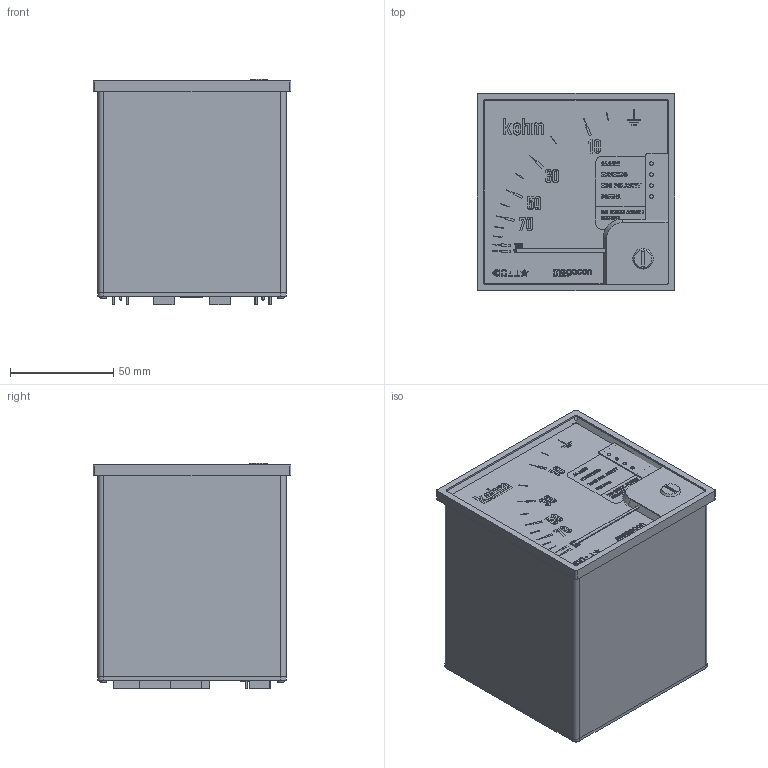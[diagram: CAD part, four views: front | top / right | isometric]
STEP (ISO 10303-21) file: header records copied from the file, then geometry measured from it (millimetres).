
FILE_DESCRIPTION(/* description */ (''),/* implementation_level */ '2;1');
FILE_NAME(/* name */ 'KPM169X.step',/* time_stamp */ '2024-11-05T08:42:30Z',/* author */ (''),/* organization */ (''),/* preprocessor_version */ 'ST-DEVELOPER v20',/* originating_system */ 'Autodesk Translation Framework v13.20.0.188',/* authorisation */ '');
FILE_SCHEMA (('AUTOMOTIVE_DESIGN { 1 0 10303 214 3 1 1 }'));
Products named in the file (11): Base 96 UNIT; Frame; FrontPlate; 92095A110_NO THREADS_Button Head Hex Drive Screw; Dial; 855135004; 7.62mm Header; 5.08 Header v2; 5.08 Header v3; 5.08 Header; 5.08 Header v3 (1)
Assembly tree (15 placements, depth 2):
  Base 96 UNIT
    Frame
    FrontPlate
    92095A110_NO THREADS_Button Head Hex Drive Screw  x4
    Dial
    855135004
    7.62mm Header
    5.08 Header v2
    5.08 Header v3
    5.08 Header v3 (1)  x3
    5.08 Header
Bounding box: 96 x 96 x 109.34 mm (x, y, z)
Volume: 847754.8 mm3; surface area: 105348.4 mm2
Topology: 22 solids, 22 shells, 5754 faces, 15580 edges, 10305 vertices
Faces by surface type: plane 3130, bspline 2443, cylinder 140, cone 33, sphere 8
Full cylindrical faces by diameter (mm): 1.7 x4, 2 x4, 2.7 x8, 3.5 x4, 7.4 x4, 7.55 x2, 7.557 x1, 7.7 x1, 7.8 x1
Entity records: 269100 total; most frequent: CARTESIAN_POINT 146172, ORIENTED_EDGE 30610, DIRECTION 17139, EDGE_CURVE 15305, LINE 10141, VECTOR 10141, VERTEX_POINT 10139, EDGE_LOOP 6115
